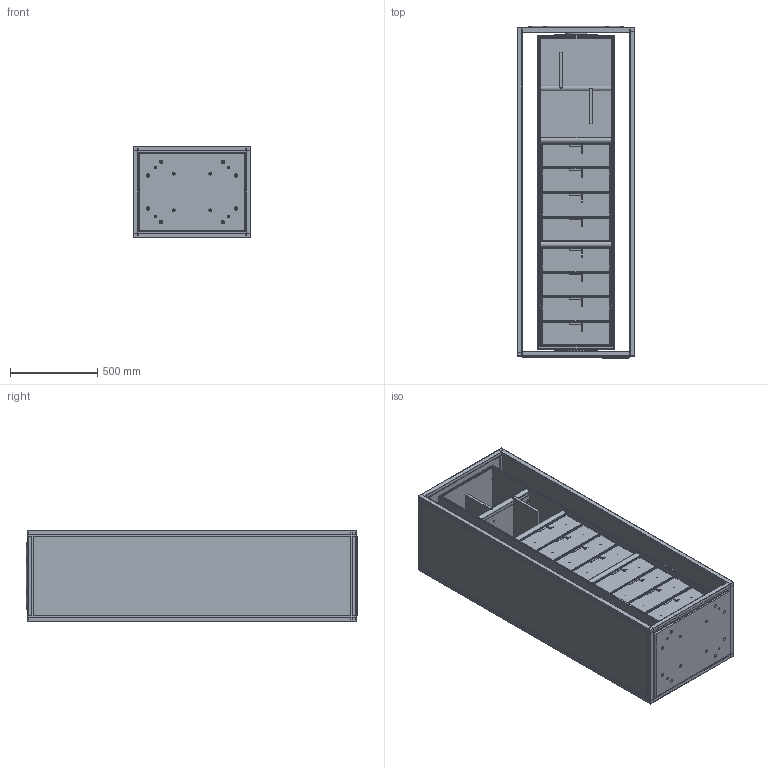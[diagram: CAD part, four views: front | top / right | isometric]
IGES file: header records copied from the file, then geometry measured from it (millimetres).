
Global section: file name: 80062; native system: Autodesk Inventor 2014; preprocessor: unknown; author: Robertom; date: 20140526.112015; units: millimetre
Bounding box: 675 x 1903.5 x 520 mm (x, y, z)
Volume: 141101313.3 mm3; surface area: 26055142.7 mm2
Topology: 159 solids, 175 shells, 3452 faces, 9622 edges, 6650 vertices
Faces by surface type: bspline 3452
